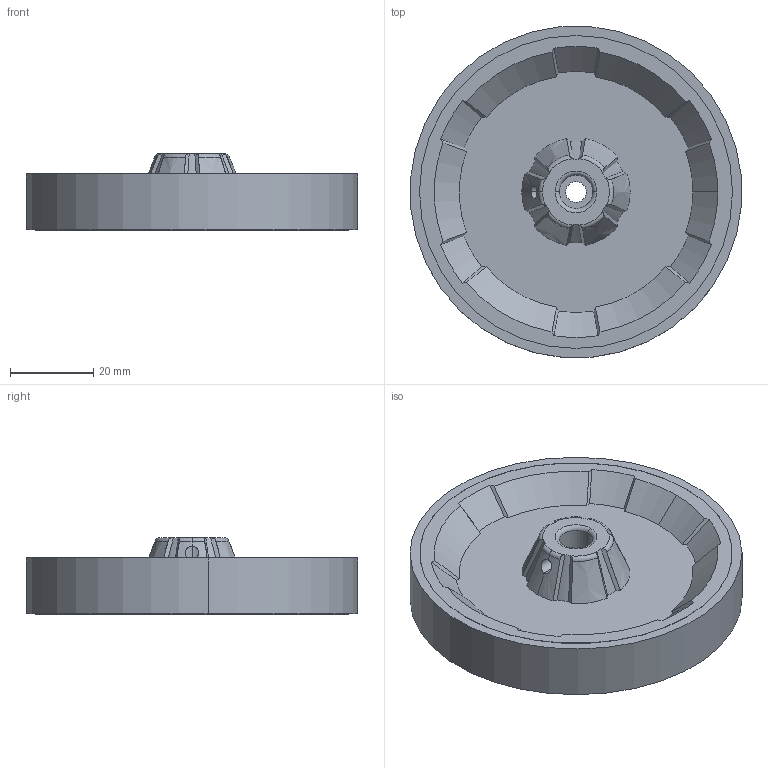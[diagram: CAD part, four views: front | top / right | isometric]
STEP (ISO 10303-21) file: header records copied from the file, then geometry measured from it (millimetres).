
FILE_DESCRIPTION (( 'STEP AP214' ), '1' );
FILE_NAME ('250 lik Tekerlek.STEP', '2020-06-04T08:17:03', ( '' ), ( '' ), 'SwSTEP 2.0', 'SolidWorks 2018', '' );
FILE_SCHEMA (( 'AUTOMOTIVE_DESIGN' ));
Length unit declared in the file: millimetre
Products named in the file (1): 250 lik Tekerlek
Bounding box: 79.34 x 79.34 x 18.25 mm (x, y, z)
Volume: 36578.8 mm3; surface area: 15412.4 mm2
Topology: 1 solids, 1 shells, 166 faces, 464 edges, 306 vertices
Faces by surface type: cone 52, bspline 48, plane 34, torus 18, cylinder 14
Entity records: 6796 total; most frequent: CARTESIAN_POINT 2847, ORIENTED_EDGE 928, DIRECTION 658, EDGE_CURVE 464, VERTEX_POINT 306, AXIS2_PLACEMENT_3D 295, B_SPLINE_CURVE_WITH_KNOTS 220, EDGE_LOOP 176
